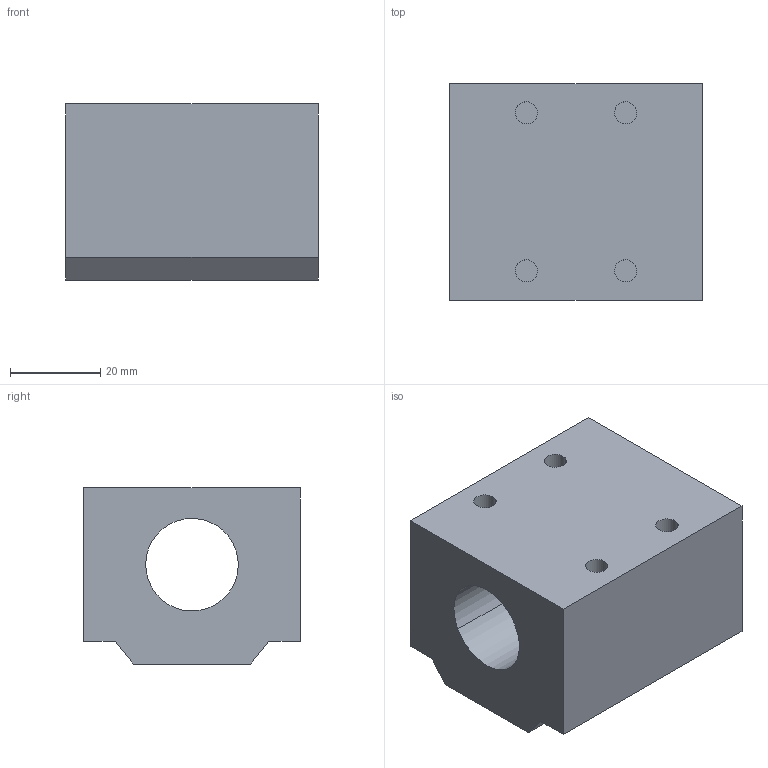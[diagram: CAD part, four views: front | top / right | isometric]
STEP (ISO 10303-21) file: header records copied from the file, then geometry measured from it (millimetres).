
FILE_DESCRIPTION(('CATIA V5 STEP Exchange'),'2;1');
FILE_NAME('C:\Users\aa\Documents\이댈\볼스크류\BNT\링크X\BNTR2005.stp','2018-11-16T04:36:50+00:00',('none'),('none'),'CATIA Version 5 Release 20 SP 7 (IN-10)','CATIA V5 STEP AP203','none');
FILE_SCHEMA(('CONFIG_CONTROL_DESIGN'));
Length unit declared in the file: millimetre
Products named in the file (1): Part1
Bounding box: 56 x 48 x 39 mm (x, y, z)
Volume: 80359 mm3; surface area: 16735.9 mm2
Topology: 1 solids, 1 shells, 27 faces, 60 edges, 40 vertices
Faces by surface type: plane 15, cylinder 12
Entity records: 730 total; most frequent: ORIENTED_EDGE 120, CARTESIAN_POINT 118, DIRECTION 94, EDGE_CURVE 60, AXIS2_PLACEMENT_3D 42, VERTEX_POINT 40, VECTOR 36, LINE 36
